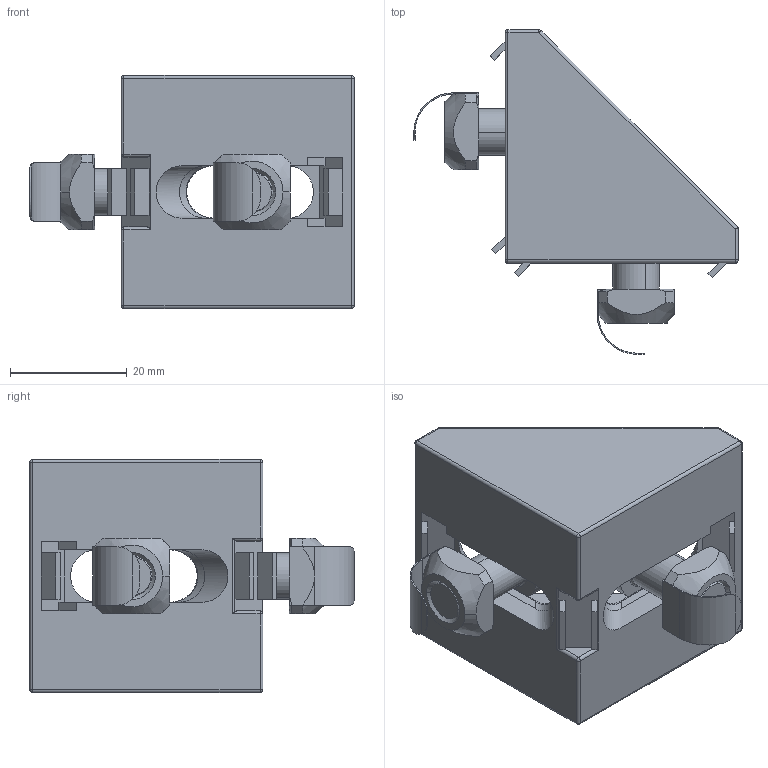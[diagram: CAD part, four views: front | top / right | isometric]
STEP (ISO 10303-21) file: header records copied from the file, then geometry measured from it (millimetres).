
FILE_DESCRIPTION (( 'STEP AP214' ), '1' );
FILE_NAME ('1.3022 Kulma 45.STEP', '2024-01-15T10:23:23', ( '' ), ( '' ), 'SwSTEP 2.0', 'SolidWorks 2024', '' );
FILE_SCHEMA (( 'AUTOMOTIVE_DESIGN' ));
Length unit declared in the file: millimetre
Products named in the file (1): 1.3022 Kulma 45
Bounding box: 55.65 x 55.65 x 40 mm (x, y, z)
Volume: 25137.4 mm3; surface area: 13211.2 mm2
Topology: 5 solids, 5 shells, 253 faces, 633 edges, 378 vertices
Faces by surface type: plane 145, cylinder 54, cone 18, bspline 12, torus 12, sphere 12
Entity records: 11943 total; most frequent: CARTESIAN_POINT 3291, ORIENTED_EDGE 1230, DIRECTION 1159, EDGE_CURVE 615, AXIS2_PLACEMENT_3D 392, VERTEX_POINT 378, LINE 375, VECTOR 375
